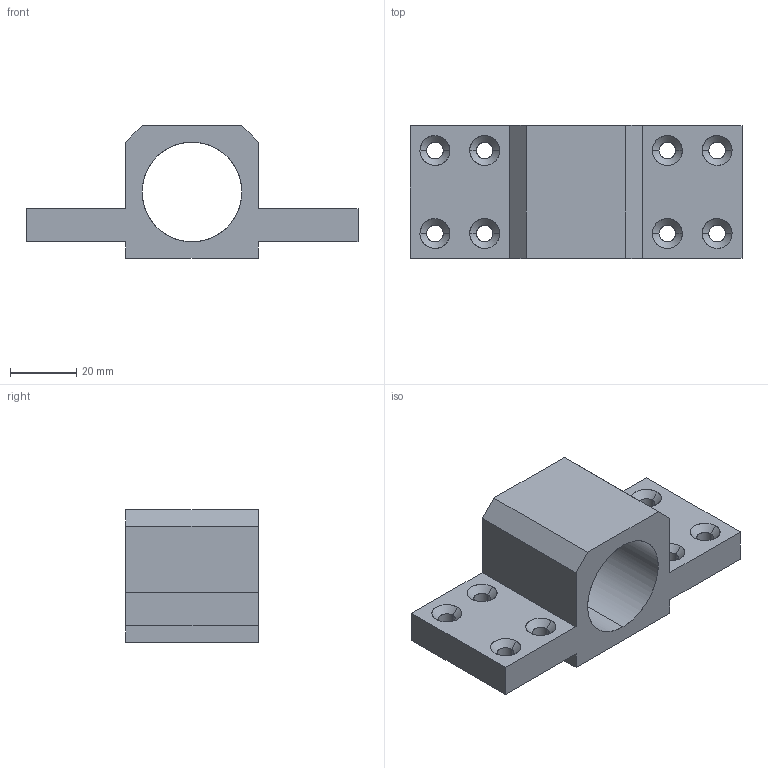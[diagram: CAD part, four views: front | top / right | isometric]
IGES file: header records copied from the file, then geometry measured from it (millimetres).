
Global section: file name: IGS; native system: MEGACADEVO2; preprocessor: IGES4.0; author: BOZO; organization: MEGATECH GmBH; units: millimetre
Bounding box: 100 x 40 x 40 mm (x, y, z)
Surface area: 18508.7 mm2 (no closed solid volume)
Topology: 0 solids, 0 shells, 50 faces, 1400 edges, 1400 vertices
Faces by surface type: bspline 50
